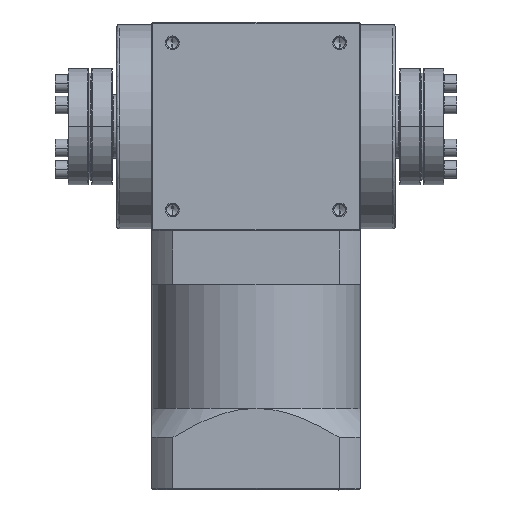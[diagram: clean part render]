
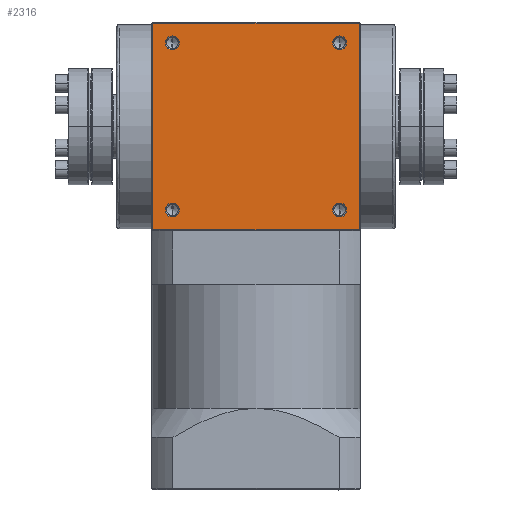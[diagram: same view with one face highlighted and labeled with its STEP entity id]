
A CAD part, top view. The second image highlights one B-rep face of the part: STEP entity #2316.
In plain terms, the highlighted planar face has unit normal (0, 0, 1).
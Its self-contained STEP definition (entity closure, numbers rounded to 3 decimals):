
#5 = DIRECTION ( 'NONE',  ( 0., 0., 1. ) ) ;
#126 = DIRECTION ( 'NONE',  ( 1., 0., 0. ) ) ;
#461 = AXIS2_PLACEMENT_3D ( 'NONE', #13401, #19511, #17976 ) ;
#806 = VERTEX_POINT ( 'NONE', #11717 ) ;
#1139 = EDGE_CURVE ( 'NONE', #5523, #19412, #18371, .T. ) ;
#1555 = EDGE_LOOP ( 'NONE', ( #16849, #17229, #5438, #12035 ) ) ;
#1813 = VERTEX_POINT ( 'NONE', #14083 ) ;
#2026 = ORIENTED_EDGE ( 'NONE', *, *, #8800, .F. ) ;
#2030 = DIRECTION ( 'NONE',  ( 0., 0., 1. ) ) ;
#2075 = CARTESIAN_POINT ( 'NONE',  ( 36., -36., 45. ) ) ;
#2304 = DIRECTION ( 'NONE',  ( 0., 0., 1. ) ) ;
#2316 = ADVANCED_FACE ( 'NONE', ( #19265, #8384, #13461, #8974, #7250 ), #5538, .F. ) ;
#2358 = DIRECTION ( 'NONE',  ( 1., 0., 0. ) ) ;
#2670 = DIRECTION ( 'NONE',  ( 1., 0., 0. ) ) ;
#2681 = CARTESIAN_POINT ( 'NONE',  ( -36., -36., 45. ) ) ;
#2744 = DIRECTION ( 'NONE',  ( 0., 0., 1. ) ) ;
#2772 = CIRCLE ( 'NONE', #19196, 3. ) ;
#2790 = AXIS2_PLACEMENT_3D ( 'NONE', #12143, #2744, #13730 ) ;
#2862 = CARTESIAN_POINT ( 'NONE',  ( 39., -36., 45. ) ) ;
#2881 = EDGE_CURVE ( 'NONE', #9312, #5531, #16043, .T. ) ;
#3192 = CARTESIAN_POINT ( 'NONE',  ( -33., 36., 45. ) ) ;
#3374 = VECTOR ( 'NONE', #2358, 1000. ) ;
#3618 = DIRECTION ( 'NONE',  ( 1., 0., 0. ) ) ;
#3933 = CIRCLE ( 'NONE', #2790, 3. ) ;
#4185 = CIRCLE ( 'NONE', #6267, 3. ) ;
#4188 = AXIS2_PLACEMENT_3D ( 'NONE', #8409, #10082, #18081 ) ;
#4512 = DIRECTION ( 'NONE',  ( 0., -1., 0. ) ) ;
#4546 = CARTESIAN_POINT ( 'NONE',  ( -44.5, -44.5, 45. ) ) ;
#5316 = AXIS2_PLACEMENT_3D ( 'NONE', #2681, #5, #126 ) ;
#5335 = DIRECTION ( 'NONE',  ( 0., 0., 1. ) ) ;
#5399 = CARTESIAN_POINT ( 'NONE',  ( 0., -44.5, 45. ) ) ;
#5438 = ORIENTED_EDGE ( 'NONE', *, *, #9782, .F. ) ;
#5523 = VERTEX_POINT ( 'NONE', #2862 ) ;
#5531 = VERTEX_POINT ( 'NONE', #15389 ) ;
#5538 = PLANE ( 'NONE',  #461 ) ;
#5855 = ORIENTED_EDGE ( 'NONE', *, *, #17739, .F. ) ;
#6267 = AXIS2_PLACEMENT_3D ( 'NONE', #11399, #2030, #12991 ) ;
#6602 = CIRCLE ( 'NONE', #11546, 3. ) ;
#6804 = CARTESIAN_POINT ( 'NONE',  ( 36., 36., 45. ) ) ;
#7137 = EDGE_LOOP ( 'NONE', ( #8911, #8827 ) ) ;
#7250 = FACE_OUTER_BOUND ( 'NONE', #1555, .T. ) ;
#7492 = EDGE_CURVE ( 'NONE', #12838, #806, #12133, .T. ) ;
#7631 = AXIS2_PLACEMENT_3D ( 'NONE', #11687, #2304, #13270 ) ;
#7817 = CARTESIAN_POINT ( 'NONE',  ( 44.5, 44.5, 45. ) ) ;
#8383 = DIRECTION ( 'NONE',  ( 1., 0., 0. ) ) ;
#8384 = FACE_BOUND ( 'NONE', #7137, .T. ) ;
#8409 = CARTESIAN_POINT ( 'NONE',  ( 36., -36., 45. ) ) ;
#8456 = LINE ( 'NONE', #13810, #8471 ) ;
#8471 = VECTOR ( 'NONE', #16884, 1000. ) ;
#8555 = CARTESIAN_POINT ( 'NONE',  ( 33., 36., 45. ) ) ;
#8598 = LINE ( 'NONE', #20014, #8772 ) ;
#8671 = VERTEX_POINT ( 'NONE', #3192 ) ;
#8772 = VECTOR ( 'NONE', #4512, 1000. ) ;
#8800 = EDGE_CURVE ( 'NONE', #1813, #8671, #4185, .T. ) ;
#8827 = ORIENTED_EDGE ( 'NONE', *, *, #13856, .F. ) ;
#8834 = CIRCLE ( 'NONE', #14555, 3. ) ;
#8878 = EDGE_CURVE ( 'NONE', #5531, #9312, #6602, .T. ) ;
#8911 = ORIENTED_EDGE ( 'NONE', *, *, #10493, .F. ) ;
#8974 = FACE_BOUND ( 'NONE', #17716, .T. ) ;
#9312 = VERTEX_POINT ( 'NONE', #17192 ) ;
#9782 = EDGE_CURVE ( 'NONE', #16501, #18650, #16411, .T. ) ;
#10082 = DIRECTION ( 'NONE',  ( 0., 0., 1. ) ) ;
#10400 = CARTESIAN_POINT ( 'NONE',  ( 0., 44.5, 45. ) ) ;
#10493 = EDGE_CURVE ( 'NONE', #12876, #18879, #2772, .T. ) ;
#11399 = CARTESIAN_POINT ( 'NONE',  ( -36., 36., 45. ) ) ;
#11546 = AXIS2_PLACEMENT_3D ( 'NONE', #14759, #5335, #16307 ) ;
#11687 = CARTESIAN_POINT ( 'NONE',  ( -36., 36., 45. ) ) ;
#11717 = CARTESIAN_POINT ( 'NONE',  ( 44.5, -44.5, 45. ) ) ;
#11723 = ORIENTED_EDGE ( 'NONE', *, *, #2881, .F. ) ;
#12035 = ORIENTED_EDGE ( 'NONE', *, *, #12464, .F. ) ;
#12133 = LINE ( 'NONE', #5399, #3374 ) ;
#12143 = CARTESIAN_POINT ( 'NONE',  ( 36., 36., 45. ) ) ;
#12464 = EDGE_CURVE ( 'NONE', #12838, #16501, #8456, .T. ) ;
#12467 = CARTESIAN_POINT ( 'NONE',  ( 39., 36., 45. ) ) ;
#12511 = EDGE_CURVE ( 'NONE', #18650, #806, #8598, .T. ) ;
#12838 = VERTEX_POINT ( 'NONE', #4546 ) ;
#12876 = VERTEX_POINT ( 'NONE', #12467 ) ;
#12991 = DIRECTION ( 'NONE',  ( 1., 0., 0. ) ) ;
#13036 = DIRECTION ( 'NONE',  ( 0., 0., 1. ) ) ;
#13159 = EDGE_CURVE ( 'NONE', #8671, #1813, #13394, .T. ) ;
#13270 = DIRECTION ( 'NONE',  ( 1., 0., 0. ) ) ;
#13394 = CIRCLE ( 'NONE', #7631, 3. ) ;
#13401 = CARTESIAN_POINT ( 'NONE',  ( 44.5, -44.5, 45. ) ) ;
#13461 = FACE_BOUND ( 'NONE', #16648, .T. ) ;
#13730 = DIRECTION ( 'NONE',  ( 1., 0., 0. ) ) ;
#13810 = CARTESIAN_POINT ( 'NONE',  ( -44.5, 0., 45. ) ) ;
#13856 = EDGE_CURVE ( 'NONE', #18879, #12876, #3933, .T. ) ;
#14083 = CARTESIAN_POINT ( 'NONE',  ( -39., 36., 45. ) ) ;
#14363 = ORIENTED_EDGE ( 'NONE', *, *, #1139, .F. ) ;
#14555 = AXIS2_PLACEMENT_3D ( 'NONE', #2075, #13036, #3618 ) ;
#14673 = EDGE_LOOP ( 'NONE', ( #17555, #2026 ) ) ;
#14759 = CARTESIAN_POINT ( 'NONE',  ( -36., -36., 45. ) ) ;
#15389 = CARTESIAN_POINT ( 'NONE',  ( -33., -36., 45. ) ) ;
#16043 = CIRCLE ( 'NONE', #5316, 3. ) ;
#16307 = DIRECTION ( 'NONE',  ( 1., 0., 0. ) ) ;
#16408 = CARTESIAN_POINT ( 'NONE',  ( 33., -36., 45. ) ) ;
#16411 = LINE ( 'NONE', #10400, #16590 ) ;
#16501 = VERTEX_POINT ( 'NONE', #18334 ) ;
#16590 = VECTOR ( 'NONE', #2670, 1000. ) ;
#16648 = EDGE_LOOP ( 'NONE', ( #19858, #11723 ) ) ;
#16849 = ORIENTED_EDGE ( 'NONE', *, *, #7492, .T. ) ;
#16884 = DIRECTION ( 'NONE',  ( 0., 1., 0. ) ) ;
#17192 = CARTESIAN_POINT ( 'NONE',  ( -39., -36., 45. ) ) ;
#17229 = ORIENTED_EDGE ( 'NONE', *, *, #12511, .F. ) ;
#17555 = ORIENTED_EDGE ( 'NONE', *, *, #13159, .F. ) ;
#17716 = EDGE_LOOP ( 'NONE', ( #14363, #5855 ) ) ;
#17725 = DIRECTION ( 'NONE',  ( 0., 0., 1. ) ) ;
#17739 = EDGE_CURVE ( 'NONE', #19412, #5523, #8834, .T. ) ;
#17976 = DIRECTION ( 'NONE',  ( -1., 0., 0. ) ) ;
#18081 = DIRECTION ( 'NONE',  ( 1., 0., 0. ) ) ;
#18334 = CARTESIAN_POINT ( 'NONE',  ( -44.5, 44.5, 45. ) ) ;
#18371 = CIRCLE ( 'NONE', #4188, 3. ) ;
#18650 = VERTEX_POINT ( 'NONE', #7817 ) ;
#18879 = VERTEX_POINT ( 'NONE', #8555 ) ;
#19196 = AXIS2_PLACEMENT_3D ( 'NONE', #6804, #17725, #8383 ) ;
#19265 = FACE_BOUND ( 'NONE', #14673, .T. ) ;
#19412 = VERTEX_POINT ( 'NONE', #16408 ) ;
#19511 = DIRECTION ( 'NONE',  ( 0., 0., -1. ) ) ;
#19858 = ORIENTED_EDGE ( 'NONE', *, *, #8878, .F. ) ;
#20014 = CARTESIAN_POINT ( 'NONE',  ( 44.5, 0., 45. ) ) ;
